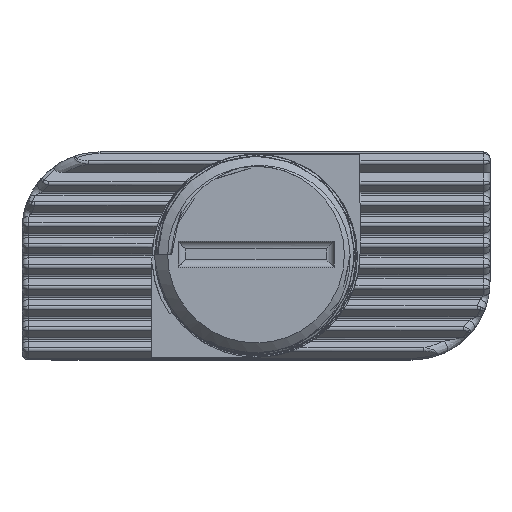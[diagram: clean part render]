
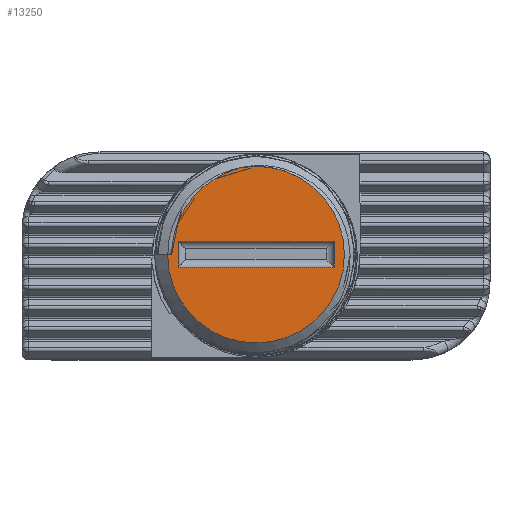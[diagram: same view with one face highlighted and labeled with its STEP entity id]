
A CAD part, top view. The second image highlights one B-rep face of the part: STEP entity #13250.
In plain terms, the highlighted planar face has unit normal (0, 0, 1).
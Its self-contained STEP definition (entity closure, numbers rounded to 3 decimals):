
#288 = CARTESIAN_POINT ( 'NONE',  ( -0.648, 3.978, 34.5 ) ) ;
#478 = CARTESIAN_POINT ( 'NONE',  ( -2.908, 2.111, 34.5 ) ) ;
#881 = ORIENTED_EDGE ( 'NONE', *, *, #9233, .F. ) ;
#934 = DIRECTION ( 'NONE',  ( 0., 1., 0. ) ) ;
#1667 = CARTESIAN_POINT ( 'NONE',  ( -3.11, 1.58, 34.5 ) ) ;
#1818 = LINE ( 'NONE', #10208, #7734 ) ;
#2141 = VERTEX_POINT ( 'NONE', #11841 ) ;
#2584 = EDGE_CURVE ( 'NONE', #14752, #5452, #10812, .T. ) ;
#2730 = EDGE_CURVE ( 'NONE', #14225, #8486, #6515, .T. ) ;
#2794 = CARTESIAN_POINT ( 'NONE',  ( -0.648, 3.978, 34.5 ) ) ;
#2844 = CARTESIAN_POINT ( 'NONE',  ( -3.221, 1.028, 34.5 ) ) ;
#2868 = EDGE_CURVE ( 'NONE', #5821, #14225, #3002, .T. ) ;
#3002 = LINE ( 'NONE', #9197, #12108 ) ;
#3021 = CARTESIAN_POINT ( 'NONE',  ( -0.581, 3.997, 34.5 ) ) ;
#3044 = DIRECTION ( 'NONE',  ( 0., 0., 1. ) ) ;
#3057 = AXIS2_PLACEMENT_3D ( 'NONE', #10156, #3044, #11356 ) ;
#3301 = EDGE_CURVE ( 'NONE', #11218, #2141, #9432, .T. ) ;
#3364 = VECTOR ( 'NONE', #15063, 1000. ) ;
#3978 = CARTESIAN_POINT ( 'NONE',  ( -1.362, 3.709, 34.5 ) ) ;
#4039 = CARTESIAN_POINT ( 'NONE',  ( -3.238, 0.647, 34.5 ) ) ;
#4138 = CARTESIAN_POINT ( 'NONE',  ( 0., 0.647, 34.5 ) ) ;
#4559 = VERTEX_POINT ( 'NONE', #10551 ) ;
#4645 = AXIS2_PLACEMENT_3D ( 'NONE', #4138, #5324, #13624 ) ;
#4768 = VECTOR ( 'NONE', #8238, 1000. ) ;
#4791 = CARTESIAN_POINT ( 'NONE',  ( -3., 1.164, 34.5 ) ) ;
#4908 = ORIENTED_EDGE ( 'NONE', *, *, #2868, .F. ) ;
#5172 = CARTESIAN_POINT ( 'NONE',  ( -1.98, 3.285, 34.5 ) ) ;
#5208 = ORIENTED_EDGE ( 'NONE', *, *, #8348, .F. ) ;
#5324 = DIRECTION ( 'NONE',  ( 0., 0., 1. ) ) ;
#5452 = VERTEX_POINT ( 'NONE', #3021 ) ;
#5475 = DIRECTION ( 'NONE',  ( -1., 0., 0. ) ) ;
#5799 = FACE_OUTER_BOUND ( 'NONE', #8088, .T. ) ;
#5821 = VERTEX_POINT ( 'NONE', #8189 ) ;
#5873 = LINE ( 'NONE', #4791, #14979 ) ;
#6000 = CARTESIAN_POINT ( 'NONE',  ( -3., 1.164, 34.5 ) ) ;
#6360 = CARTESIAN_POINT ( 'NONE',  ( -2.39, 2.891, 34.5 ) ) ;
#6515 = LINE ( 'NONE', #10367, #3364 ) ;
#7001 = CARTESIAN_POINT ( 'NONE',  ( -0.648, 3.978, 34.5 ) ) ;
#7188 = ORIENTED_EDGE ( 'NONE', *, *, #2730, .F. ) ;
#7360 = CARTESIAN_POINT ( 'NONE',  ( -0.626, 3.984, 34.5 ) ) ;
#7556 = CARTESIAN_POINT ( 'NONE',  ( -2.726, 2.441, 34.5 ) ) ;
#7734 = VECTOR ( 'NONE', #5475, 1000. ) ;
#7919 = LINE ( 'NONE', #11844, #4768 ) ;
#8088 = EDGE_LOOP ( 'NONE', ( #12927, #14967, #11756, #9273 ) ) ;
#8189 = CARTESIAN_POINT ( 'NONE',  ( 3., 0.164, 34.5 ) ) ;
#8238 = DIRECTION ( 'NONE',  ( 1., 0., 0. ) ) ;
#8348 = EDGE_CURVE ( 'NONE', #4559, #5821, #7919, .T. ) ;
#8486 = VERTEX_POINT ( 'NONE', #6000 ) ;
#8696 = CARTESIAN_POINT ( 'NONE',  ( -1.012, 3.867, 34.5 ) ) ;
#8748 = CARTESIAN_POINT ( 'NONE',  ( -2.986, 1.936, 34.5 ) ) ;
#8855 = EDGE_CURVE ( 'NONE', #2141, #14752, #1818, .T. ) ;
#8989 = CARTESIAN_POINT ( 'NONE',  ( -3.4, 0.647, 34.5 ) ) ;
#9197 = CARTESIAN_POINT ( 'NONE',  ( 3., 1.164, 34.5 ) ) ;
#9233 = EDGE_CURVE ( 'NONE', #8486, #4559, #5873, .T. ) ;
#9273 = ORIENTED_EDGE ( 'NONE', *, *, #10169, .T. ) ;
#9355 = CARTESIAN_POINT ( 'NONE',  ( 3., 1.164, 34.5 ) ) ;
#9432 = B_SPLINE_CURVE_WITH_KNOTS ( 'NONE', 3,
 ( #2794, #8696, #3978, #12295, #5172, #13475, #6360, #14668, #7556, #478, #8748, #1667, #9946, #2844, #11158, #4039 ),
 .UNSPECIFIED., .F., .F.,
 ( 4, 2, 2, 2, 2, 2, 2, 4 ),
 ( 0., 0.001, 0.002, 0.002, 0.003, 0.003, 0.004, 0.005 ),
 .UNSPECIFIED. ) ;
#9946 = CARTESIAN_POINT ( 'NONE',  ( -3.157, 1.399, 34.5 ) ) ;
#10156 = CARTESIAN_POINT ( 'NONE',  ( 0., 0.647, 34.5 ) ) ;
#10169 = EDGE_CURVE ( 'NONE', #5452, #11218, #11547, .T. ) ;
#10208 = CARTESIAN_POINT ( 'NONE',  ( 0., 0.647, 34.5 ) ) ;
#10367 = CARTESIAN_POINT ( 'NONE',  ( -3., 1.164, 34.5 ) ) ;
#10551 = CARTESIAN_POINT ( 'NONE',  ( -3., 0.164, 34.5 ) ) ;
#10812 = CIRCLE ( 'NONE', #3057, 3.4 ) ;
#11158 = CARTESIAN_POINT ( 'NONE',  ( -3.238, 0.837, 34.5 ) ) ;
#11218 = VERTEX_POINT ( 'NONE', #7001 ) ;
#11253 = PLANE ( 'NONE',  #4645 ) ;
#11356 = DIRECTION ( 'NONE',  ( 1., 0., 0. ) ) ;
#11547 = B_SPLINE_CURVE_WITH_KNOTS ( 'NONE', 3,
 ( #13274, #13180, #7360, #288 ),
 .UNSPECIFIED., .F., .F.,
 ( 4, 4 ),
 ( 0., 0.001 ),
 .UNSPECIFIED. ) ;
#11756 = ORIENTED_EDGE ( 'NONE', *, *, #2584, .T. ) ;
#11762 = FACE_BOUND ( 'NONE', #15153, .T. ) ;
#11841 = CARTESIAN_POINT ( 'NONE',  ( -3.238, 0.647, 34.5 ) ) ;
#11844 = CARTESIAN_POINT ( 'NONE',  ( -3., 0.164, 34.5 ) ) ;
#12108 = VECTOR ( 'NONE', #934, 1000. ) ;
#12295 = CARTESIAN_POINT ( 'NONE',  ( -1.832, 3.4, 34.5 ) ) ;
#12927 = ORIENTED_EDGE ( 'NONE', *, *, #3301, .T. ) ;
#13180 = CARTESIAN_POINT ( 'NONE',  ( -0.604, 3.991, 34.5 ) ) ;
#13250 = ADVANCED_FACE ( 'NONE', ( #11762, #5799 ), #11253, .T. ) ;
#13274 = CARTESIAN_POINT ( 'NONE',  ( -0.581, 3.997, 34.5 ) ) ;
#13475 = CARTESIAN_POINT ( 'NONE',  ( -2.259, 3.031, 34.5 ) ) ;
#13624 = DIRECTION ( 'NONE',  ( 1., 0., 0. ) ) ;
#14225 = VERTEX_POINT ( 'NONE', #9355 ) ;
#14288 = DIRECTION ( 'NONE',  ( 0., -1., 0. ) ) ;
#14668 = CARTESIAN_POINT ( 'NONE',  ( -2.623, 2.597, 34.5 ) ) ;
#14752 = VERTEX_POINT ( 'NONE', #8989 ) ;
#14967 = ORIENTED_EDGE ( 'NONE', *, *, #8855, .T. ) ;
#14979 = VECTOR ( 'NONE', #14288, 1000. ) ;
#15063 = DIRECTION ( 'NONE',  ( -1., 0., 0. ) ) ;
#15153 = EDGE_LOOP ( 'NONE', ( #881, #7188, #4908, #5208 ) ) ;
